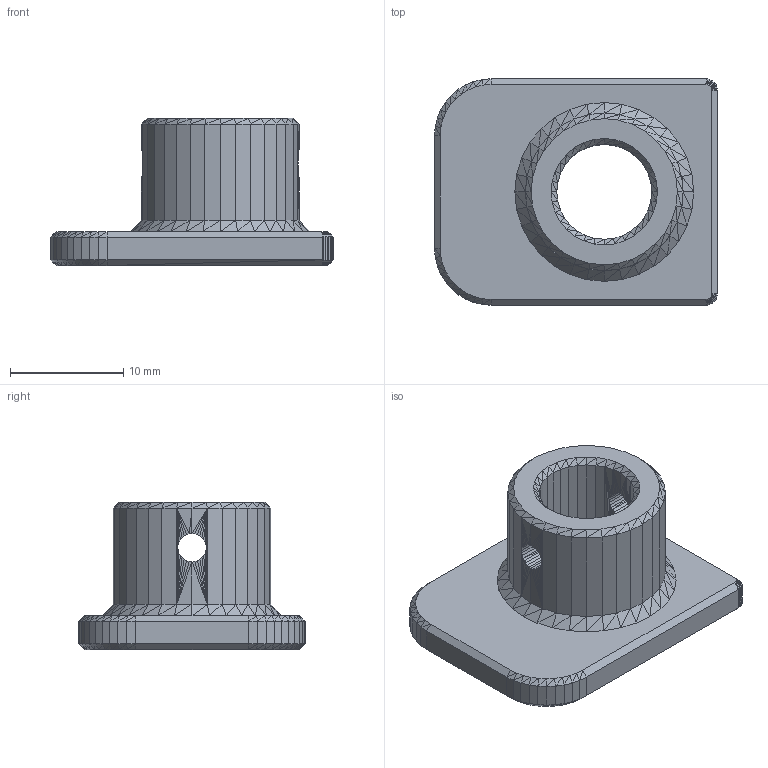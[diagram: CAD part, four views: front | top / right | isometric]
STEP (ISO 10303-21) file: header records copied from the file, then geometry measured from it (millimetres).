
FILE_DESCRIPTION(('Open CASCADE Model'),'2;1');
FILE_NAME('Open CASCADE Shape Model','2026-08-09T08:59:05',('Author'),( 'Open CASCADE'),'Open CASCADE STEP processor 7.9','Open CASCADE 7.9' ,'Unknown');
FILE_SCHEMA(('AUTOMOTIVE_DESIGN { 1 0 10303 214 1 1 1 1 }'));
Length unit declared in the file: millimetre
Products named in the file (1): Open CASCADE STEP translator 7.9 2
Bounding box: 25.01 x 20.01 x 13 mm (x, y, z)
Volume: 2227.6 mm3; surface area: 1836.9 mm2
Topology: 1 solids, 1 shells, 777 faces, 1348 edges, 570 vertices
Faces by surface type: plane 777
Entity records: 33674 total; most frequent: CARTESIAN_POINT 6058, DIRECTION 4934, LINE 3378, VECTOR 3378, ORIENTED_EDGE 2696, PCURVE 2696, DEFINITIONAL_REPRESENTATION 2696, EDGE_CURVE 1348
